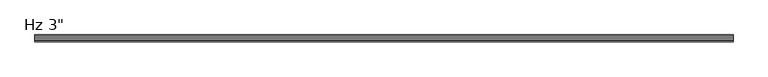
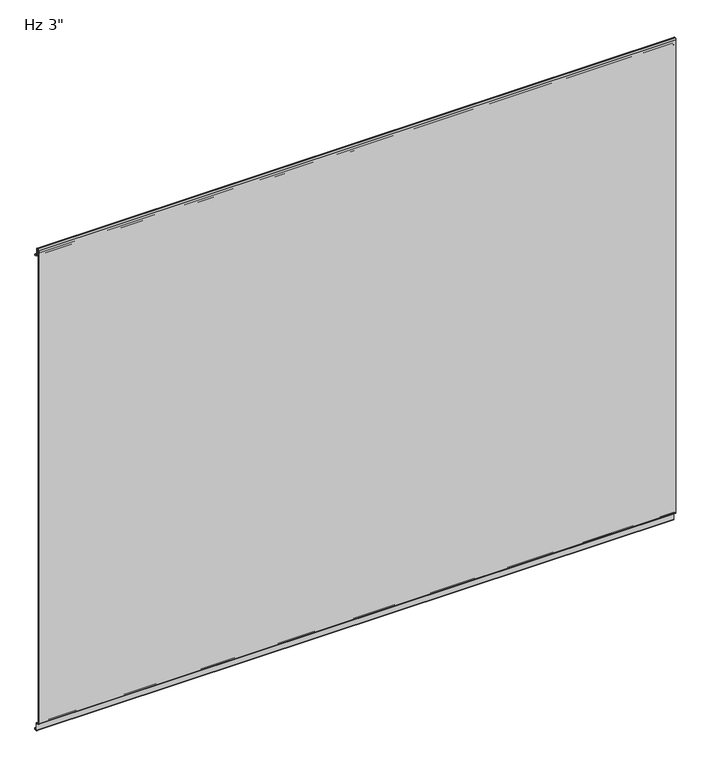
"""IFC4 building model written with IfcOpenShell, lengths in millimetres: plate geometry."""

from ifc_helpers import new_model, si_unit, frame, origin, place, context, project, spatial, polyline, circle_curve, source, transform, mapped, element, save
from ifc_brep_helpers import plane_surface, cylinder_surface, revolved_surface, advanced_brep


def plate_9a0fc9c3(model_context):
    return source(origin(), model_context, "Body", "AdvancedBrep", [
        advanced_brep(
        [(-730.0, -73.2223811, 3.8501063), (-730.0, -70.9308685, 3.8501063), (-730.0, -66.9535232, -0.1272391), (-730.0, -66.9535232, -15.7237514), (-730.0, -66.365666, -16.3116086), (-730.0, -63.2941346, -16.3116086), (-730.0, -62.7062635, -15.7237374), (-730.0, -62.7062635, -13.3687064), (-730.0, -61.7062599, -13.3687064), (-730.0, -61.7062599, -15.7237419), (-730.0, -63.2941364, -17.3116185), (-730.0, -66.3656851, -17.3116185), (-730.0, -67.9535616, -15.7237419), (-730.0, -67.9535616, -0.1273159), (-730.0, -70.9308302, 2.8499526), (-730.0, -73.222714, 2.8499526), (-730.0, -76.1999825, 5.8272211), (-730.0, -76.2, 1150.8100652), (-730.0, -73.2227315, 1153.7873337), (-730.0, -72.1806329, 1153.7873337), (-730.0, -69.2033644, 1150.8100652), (-730.0, -69.2033644, 1136.6216801), (-730.0, -67.6154878, 1135.0338036), (-730.0, -63.2950697, 1135.0338036), (-730.0, -61.7066023, 1133.3929042), (-730.0, -61.7066023, 1131.0482432), (-730.0, -62.7060472, 1131.0482432), (-730.0, -62.7060472, 1133.4253599), (-730.0, -63.2950842, 1134.0338971), (-730.0, -67.6153166, 1134.0338971), (-730.0, -70.2030166, 1136.6215971), (-730.0, -70.2030166, 1150.8107568), (-730.0, -72.180978, 1152.7887182), (-730.0, -73.22341, 1152.7887182), (-730.0, -75.1992912, 1150.812837), (-730.0, -75.1992912, 5.8270163), (730.0, -73.2223811, 3.8501063), (730.0, -75.1992912, 5.8270163), (730.0, -75.1992912, 1150.812837), (730.0, -73.22341, 1152.7887182), (730.0, -72.180978, 1152.7887182), (730.0, -70.2030166, 1150.8107568), (730.0, -70.2030166, 1136.6215971), (730.0, -67.6153166, 1134.0338971), (730.0, -63.2950842, 1134.0338971), (730.0, -62.7060472, 1133.4253599), (730.0, -62.7060472, 1131.0482432), (730.0, -61.7066023, 1131.0482432), (730.0, -61.7066023, 1133.3929042), (730.0, -63.2950697, 1135.0338036), (730.0, -67.6154878, 1135.0338036), (730.0, -69.2033644, 1136.6216801), (730.0, -69.2033644, 1150.8100652), (730.0, -72.1806329, 1153.7873337), (730.0, -73.2227315, 1153.7873337), (730.0, -76.2, 1150.8100652), (730.0, -76.2, 5.8272211), (730.0, -73.222714, 2.8499526), (730.0, -70.9308302, 2.8499526), (730.0, -67.9535616, -0.1273159), (730.0, -67.9535616, -15.7237419), (730.0, -66.3656851, -17.3116185), (730.0, -63.2941364, -17.3116185), (730.0, -61.7062599, -15.7237419), (730.0, -61.7062599, -13.3687064), (730.0, -62.7062635, -13.3687064), (730.0, -62.7062635, -15.7237374), (730.0, -63.2941346, -16.3116086), (730.0, -66.365666, -16.3116086), (730.0, -66.9535232, -15.7237514), (730.0, -66.9535232, -0.1272391), (730.0, -70.9308685, 3.8501063)],
        [
            (0, 1),
            (1, 2, circle_curve(frame((-730.0, -70.9308685, -0.1272391), z_axis=(-1.0, 0.0, 0.0), x_axis=(0.0, 0.0, -1.0)), 3.9773454)),
            (2, 3),
            (3, 4, circle_curve(frame((-730.0, -66.365666, -15.7237514), z_axis=(1.0, 0.0, 0.0), x_axis=(0.0, 0.0, -1.0)), 0.5878572)),
            (4, 5),
            (5, 6, circle_curve(frame((-730.0, -63.2941346, -15.7237374), z_axis=(1.0, 0.0, 0.0), x_axis=(0.0, 0.0, -1.0)), 0.5878711)),
            (6, 7),
            (7, 8),
            (8, 9),
            (9, 10, circle_curve(frame((-730.0, -63.2941364, -15.7237419), z_axis=(-1.0, 0.0, 0.0), x_axis=(0.0, 0.0, -1.0)), 1.5878765)),
            (10, 11),
            (11, 12, circle_curve(frame((-730.0, -66.3656851, -15.7237419), z_axis=(-1.0, 0.0, 0.0), x_axis=(0.0, 0.0, -1.0)), 1.5878765)),
            (12, 13),
            (13, 14, circle_curve(frame((-730.0, -70.9308302, -0.1273159), z_axis=(1.0, 0.0, 0.0), x_axis=(0.0, 0.0, -1.0)), 2.9772685)),
            (14, 15),
            (15, 16, circle_curve(frame((-730.0, -73.222714, 5.8272211), z_axis=(-1.0, 0.0, 0.0), x_axis=(0.0, 0.0, -1.0)), 2.9772685)),
            (16, 17),
            (17, 18, circle_curve(frame((-730.0, -73.2227315, 1150.8100652), z_axis=(-1.0, 0.0, 0.0), x_axis=(0.0, 0.0, -1.0)), 2.9772685)),
            (18, 19),
            (19, 20, circle_curve(frame((-730.0, -72.1806329, 1150.8100652), z_axis=(-1.0, 0.0, 0.0), x_axis=(0.0, 0.0, -1.0)), 2.9772685)),
            (20, 21),
            (21, 22, circle_curve(frame((-730.0, -67.6154878, 1136.6216801), z_axis=(1.0, 0.0, 0.0), x_axis=(0.0, 0.0, -1.0)), 1.5878765)),
            (22, 23),
            (23, 24, circle_curve(frame((-730.0, -63.2950697, 1133.4444985), z_axis=(-1.0, 0.0, 0.0), x_axis=(0.0, 0.0, -1.0)), 1.5893051)),
            (24, 25),
            (25, 26),
            (26, 27),
            (27, 28, circle_curve(frame((-730.0, -63.2950842, 1133.4445477), z_axis=(1.0, 0.0, 0.0), x_axis=(0.0, 0.0, -1.0)), 0.5893495)),
            (28, 29),
            (29, 30, circle_curve(frame((-730.0, -67.6153166, 1136.6215971), z_axis=(-1.0, 0.0, 0.0), x_axis=(0.0, 0.0, -1.0)), 2.5877)),
            (30, 31),
            (31, 32, circle_curve(frame((-730.0, -72.180978, 1150.8107568), z_axis=(1.0, 0.0, 0.0), x_axis=(0.0, 0.0, -1.0)), 1.9779614)),
            (32, 33),
            (33, 34, circle_curve(frame((-730.0, -73.22341, 1150.812837), z_axis=(1.0, 0.0, 0.0), x_axis=(0.0, 0.0, -1.0)), 1.9758812)),
            (34, 35),
            (35, 0, circle_curve(frame((-730.0, -73.2223811, 5.8270163), z_axis=(1.0, 0.0, 0.0), x_axis=(0.0, 0.0, -1.0)), 1.9769101)),
            (36, 37, circle_curve(frame((730.0, -73.2223811, 5.8270163), z_axis=(-1.0, 0.0, 0.0), x_axis=(0.0, 0.0, -1.0)), 1.9769101)),
            (37, 38),
            (38, 39, circle_curve(frame((730.0, -73.22341, 1150.812837), z_axis=(-1.0, 0.0, 0.0), x_axis=(0.0, 0.0, -1.0)), 1.9758812)),
            (39, 40),
            (40, 41, circle_curve(frame((730.0, -72.180978, 1150.8107568), z_axis=(-1.0, 0.0, 0.0), x_axis=(0.0, 0.0, -1.0)), 1.9779614)),
            (41, 42),
            (42, 43, circle_curve(frame((730.0, -67.6153166, 1136.6215971), z_axis=(1.0, 0.0, 0.0), x_axis=(0.0, 0.0, -1.0)), 2.5877)),
            (43, 44),
            (44, 45, circle_curve(frame((730.0, -63.2950842, 1133.4445477), z_axis=(-1.0, 0.0, 0.0), x_axis=(0.0, 0.0, -1.0)), 0.5893495)),
            (45, 46),
            (46, 47),
            (47, 48),
            (48, 49, circle_curve(frame((730.0, -63.2950697, 1133.4444985), z_axis=(1.0, 0.0, 0.0), x_axis=(0.0, 0.0, -1.0)), 1.5893051)),
            (49, 50),
            (50, 51, circle_curve(frame((730.0, -67.6154878, 1136.6216801), z_axis=(-1.0, 0.0, 0.0), x_axis=(0.0, 0.0, -1.0)), 1.5878765)),
            (51, 52),
            (52, 53, circle_curve(frame((730.0, -72.1806329, 1150.8100652), z_axis=(1.0, 0.0, 0.0), x_axis=(0.0, 0.0, -1.0)), 2.9772685)),
            (53, 54),
            (54, 55, circle_curve(frame((730.0, -73.2227315, 1150.8100652), z_axis=(1.0, 0.0, 0.0), x_axis=(0.0, 0.0, -1.0)), 2.9772685)),
            (55, 56),
            (56, 57, circle_curve(frame((730.0, -73.222714, 5.8272211), z_axis=(1.0, 0.0, 0.0), x_axis=(0.0, 0.0, -1.0)), 2.9772685)),
            (57, 58),
            (58, 59, circle_curve(frame((730.0, -70.9308302, -0.1273159), z_axis=(-1.0, 0.0, 0.0), x_axis=(0.0, 0.0, -1.0)), 2.9772685)),
            (59, 60),
            (60, 61, circle_curve(frame((730.0, -66.3656851, -15.7237419), z_axis=(1.0, 0.0, 0.0), x_axis=(0.0, 0.0, -1.0)), 1.5878765)),
            (61, 62),
            (62, 63, circle_curve(frame((730.0, -63.2941364, -15.7237419), z_axis=(1.0, 0.0, 0.0), x_axis=(0.0, 0.0, -1.0)), 1.5878765)),
            (63, 64),
            (64, 65),
            (65, 66),
            (66, 67, circle_curve(frame((730.0, -63.2941346, -15.7237374), z_axis=(-1.0, 0.0, 0.0), x_axis=(0.0, 0.0, -1.0)), 0.5878711)),
            (67, 68),
            (68, 69, circle_curve(frame((730.0, -66.365666, -15.7237514), z_axis=(-1.0, 0.0, 0.0), x_axis=(0.0, 0.0, -1.0)), 0.5878572)),
            (69, 70),
            (70, 71, circle_curve(frame((730.0, -70.9308685, -0.1272391), z_axis=(1.0, 0.0, 0.0), x_axis=(0.0, 0.0, -1.0)), 3.9773454)),
            (71, 36),
            (35, 37),
            (36, 0),
            (34, 38),
            (33, 39),
            (32, 40),
            (31, 41),
            (30, 42),
            (29, 43),
            (28, 44),
            (27, 45),
            (26, 46),
            (25, 47),
            (24, 48),
            (23, 49),
            (22, 50),
            (21, 51),
            (20, 52),
            (19, 53),
            (18, 54),
            (17, 55),
            (16, 56),
            (15, 57),
            (14, 58),
            (13, 59),
            (12, 60),
            (11, 61),
            (10, 62),
            (9, 63),
            (8, 64),
            (7, 65),
            (6, 66),
            (5, 67),
            (4, 68),
            (3, 69),
            (2, 70),
            (1, 71),
        ],
        [
            plane_surface(frame((-730.0, -76.2, 576.2625), z_axis=(-1.0, 0.0, 0.0), x_axis=(0.0, -1.0, 0.0))),
            plane_surface(frame((730.0, -76.2, 576.2625), z_axis=(1.0, 0.0, 0.0), x_axis=(0.0, -1.0, 0.0))),
            revolved_surface(polyline([(730.0, -73.2223811, 3.8501062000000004), (-730.0, -73.2223811, 3.8501062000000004)]), (-730.0, -73.2223811, 5.8270163), (1.0, 0.0, 0.0)),
            plane_surface(frame((-730.0, -75.1992912, 5.8270163), z_axis=(0.0, 1.0, 0.0), x_axis=(1.0, 0.0, 0.0))),
            revolved_surface(polyline([(730.0, -73.22341, 1148.8369558), (-730.0, -73.22341, 1148.8369558)]), (-730.0, -73.22341, 1150.812837), (1.0, 0.0, 0.0)),
            plane_surface(frame((-730.0, -73.22341, 1152.7887182), z_axis=(0.0, 0.0, -1.0), x_axis=(1.0, 0.0, 0.0))),
            revolved_surface(polyline([(730.0, -72.180978, 1148.8327954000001), (-730.0, -72.180978, 1148.8327954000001)]), (-730.0, -72.180978, 1150.8107568), (1.0, 0.0, 0.0)),
            plane_surface(frame((-730.0, -70.2030166, 1150.8107568), z_axis=(0.0, -1.0, 0.0), x_axis=(1.0, 0.0, 0.0))),
            cylinder_surface(frame((-730.0, -67.6153166, 1136.6215971), z_axis=(-1.0, 0.0, 0.0), x_axis=(0.0, 0.0, -1.0)), 2.5877),
            plane_surface(frame((-730.0, -67.6153166, 1134.0338971), z_axis=(0.0, 0.0, -1.0), x_axis=(1.0, 0.0, 0.0))),
            revolved_surface(polyline([(730.0, -63.2950842, 1132.8551982), (-730.0, -63.2950842, 1132.8551982)]), (-730.0, -63.2950842, 1133.4445477), (1.0, 0.0, 0.0)),
            plane_surface(frame((-730.0, -62.7060472, 1133.4253599), z_axis=(0.0, -1.0, 0.0), x_axis=(1.0, 0.0, 0.0))),
            plane_surface(frame((-730.0, -62.7060472, 1131.0482432), z_axis=(0.0, 0.0, -1.0), x_axis=(1.0, 0.0, 0.0))),
            plane_surface(frame((-730.0, -61.7066023, 1131.0482432), z_axis=(0.0, 1.0, 0.0), x_axis=(1.0, 0.0, 0.0))),
            cylinder_surface(frame((-730.0, -63.2950697, 1133.4444985), z_axis=(-1.0, 0.0, 0.0), x_axis=(0.0, 0.0, -1.0)), 1.5893051),
            plane_surface(frame((-730.0, -63.2950697, 1135.0338036), z_axis=(0.0, 0.0, 1.0), x_axis=(1.0, 0.0, 0.0))),
            revolved_surface(polyline([(730.0, -67.6154878, 1135.0338036), (-730.0, -67.6154878, 1135.0338036)]), (-730.0, -67.6154878, 1136.6216801), (1.0, 0.0, 0.0)),
            plane_surface(frame((-730.0, -69.2033644, 1136.6216801), z_axis=(0.0, 1.0, 0.0), x_axis=(1.0, 0.0, 0.0))),
            cylinder_surface(frame((-730.0, -72.1806329, 1150.8100652), z_axis=(-1.0, 0.0, 0.0), x_axis=(0.0, 0.0, -1.0)), 2.9772685),
            plane_surface(frame((-730.0, -72.1806329, 1153.7873337), z_axis=(0.0, 0.0, 1.0), x_axis=(1.0, 0.0, 0.0))),
            cylinder_surface(frame((-730.0, -73.2227315, 1150.8100652), z_axis=(-1.0, 0.0, 0.0), x_axis=(0.0, 0.0, -1.0)), 2.9772685),
            plane_surface(frame((-730.0, -76.2, 1150.8100652), z_axis=(0.0, -1.0, 0.0), x_axis=(1.0, 0.0, 0.0))),
            cylinder_surface(frame((-730.0, -73.222714, 5.8272211), z_axis=(-1.0, 0.0, 0.0), x_axis=(0.0, 0.0, -1.0)), 2.9772685),
            plane_surface(frame((-730.0, -73.222714, 2.8499526), z_axis=(0.0, 0.0, -1.0), x_axis=(1.0, 0.0, 0.0))),
            revolved_surface(polyline([(730.0, -70.9308302, -3.1045844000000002), (-730.0, -70.9308302, -3.1045844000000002)]), (-730.0, -70.9308302, -0.1273159), (1.0, 0.0, 0.0)),
            plane_surface(frame((-730.0, -67.9535616, -0.1273159), z_axis=(0.0, -1.0, 0.0), x_axis=(1.0, 0.0, 0.0))),
            cylinder_surface(frame((-730.0, -66.3656851, -15.7237419), z_axis=(-1.0, 0.0, 0.0), x_axis=(0.0, 0.0, -1.0)), 1.5878765),
            plane_surface(frame((-730.0, -66.3656851, -17.3116185), z_axis=(0.0, 0.0, -1.0), x_axis=(1.0, 0.0, 0.0))),
            cylinder_surface(frame((-730.0, -63.2941364, -15.7237419), z_axis=(-1.0, 0.0, 0.0), x_axis=(0.0, 0.0, -1.0)), 1.5878765),
            plane_surface(frame((-730.0, -61.7062599, -15.7237419), z_axis=(0.0, 1.0, 0.0), x_axis=(1.0, 0.0, 0.0))),
            plane_surface(frame((-730.0, -61.7062599, -13.3687064), z_axis=(0.0, 0.0, 1.0), x_axis=(1.0, 0.0, 0.0))),
            plane_surface(frame((-730.0, -62.7062635, -13.3687064), z_axis=(0.0, -1.0, 0.0), x_axis=(1.0, 0.0, 0.0))),
            revolved_surface(polyline([(730.0, -63.2941346, -16.3116085), (-730.0, -63.2941346, -16.3116085)]), (-730.0, -63.2941346, -15.7237374), (1.0, 0.0, 0.0)),
            plane_surface(frame((-730.0, -63.2941346, -16.3116086), z_axis=(0.0, 0.0, 1.0), x_axis=(1.0, 0.0, 0.0))),
            revolved_surface(polyline([(730.0, -66.365666, -16.3116086), (-730.0, -66.365666, -16.3116086)]), (-730.0, -66.365666, -15.7237514), (1.0, 0.0, 0.0)),
            plane_surface(frame((-730.0, -66.9535232, -15.7237514), z_axis=(0.0, 1.0, 0.0), x_axis=(1.0, 0.0, 0.0))),
            cylinder_surface(frame((-730.0, -70.9308685, -0.1272391), z_axis=(-1.0, 0.0, 0.0), x_axis=(0.0, 0.0, -1.0)), 3.9773454),
            plane_surface(frame((-730.0, -70.9308685, 3.8501063), z_axis=(0.0, 0.0, 1.0), x_axis=(1.0, 0.0, 0.0))),
        ],
        [
            (0, [[1, 2, 3, 4, 5, 6, 7, 8, 9, 10, 11, 12, 13, 14, 15, 16, 17, 18, 19, 20, 21, 22, 23, 24, 25, 26, 27, 28, 29, 30, 31, 32, 33, 34, 35, 36]]),
            (1, [[37, 38, 39, 40, 41, 42, 43, 44, 45, 46, 47, 48, 49, 50, 51, 52, 53, 54, 55, 56, 57, 58, 59, 60, 61, 62, 63, 64, 65, 66, 67, 68, 69, 70, 71, 72]]),
            (2, [[73, -37, 74, -36]]),
            (3, [[75, -38, -73, -35]]),
            (4, [[76, -39, -75, -34]]),
            (5, [[77, -40, -76, -33]]),
            (6, [[78, -41, -77, -32]]),
            (7, [[79, -42, -78, -31]]),
            (8, [[80, -43, -79, -30]]),
            (9, [[81, -44, -80, -29]]),
            (10, [[82, -45, -81, -28]]),
            (11, [[83, -46, -82, -27]]),
            (12, [[84, -47, -83, -26]]),
            (13, [[85, -48, -84, -25]]),
            (14, [[86, -49, -85, -24]]),
            (15, [[87, -50, -86, -23]]),
            (16, [[88, -51, -87, -22]]),
            (17, [[89, -52, -88, -21]]),
            (18, [[90, -53, -89, -20]]),
            (19, [[91, -54, -90, -19]]),
            (20, [[92, -55, -91, -18]]),
            (21, [[93, -56, -92, -17]]),
            (22, [[94, -57, -93, -16]]),
            (23, [[95, -58, -94, -15]]),
            (24, [[96, -59, -95, -14]]),
            (25, [[97, -60, -96, -13]]),
            (26, [[98, -61, -97, -12]]),
            (27, [[99, -62, -98, -11]]),
            (28, [[100, -63, -99, -10]]),
            (29, [[101, -64, -100, -9]]),
            (30, [[102, -65, -101, -8]]),
            (31, [[103, -66, -102, -7]]),
            (32, [[104, -67, -103, -6]]),
            (33, [[105, -68, -104, -5]]),
            (34, [[106, -69, -105, -4]]),
            (35, [[107, -70, -106, -3]]),
            (36, [[108, -71, -107, -2]]),
            (37, [[-74, -72, -108, -1]]),
        ],
    ),
    ])


if __name__ == "__main__":
    model = new_model("IFC4")
    model_context = context("Model", 3, world=origin())
    ifc_project = project(units=[si_unit("LENGTHUNIT", "METRE", prefix="MILLI")], contexts=[model_context])
    site = spatial("IfcSite", under=ifc_project)
    building = spatial("IfcBuilding", under=site)
    placement = place(None, origin())
    plate_shape = plate_9a0fc9c3(model_context)
    element("IfcPlate", 1, ObjectType="KIP-SLI-FLI-R19-CP-Hz-FL_SL : Hz 3\"", at=placement, inside=building, context=model_context, shape_type="MappedRepresentation", body=[
        mapped(plate_shape, transform((0.0, 0.0, 0.0), x_axis=(1.0, 0.0, 0.0), y_axis=(0.0, 1.0, 0.0), z_axis=(0.0, 0.0, 1.0))),
    ])
    save(model, "model.ifc")
